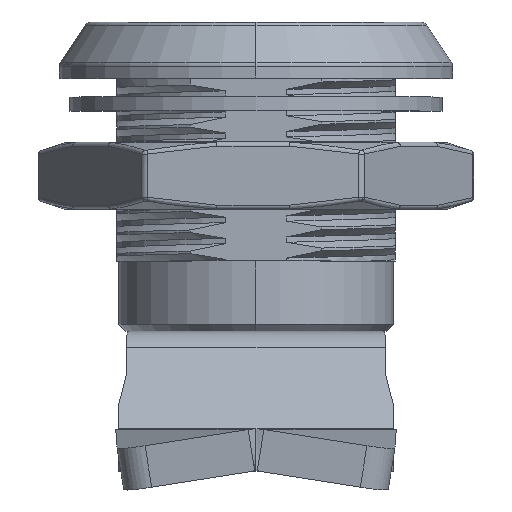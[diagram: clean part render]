
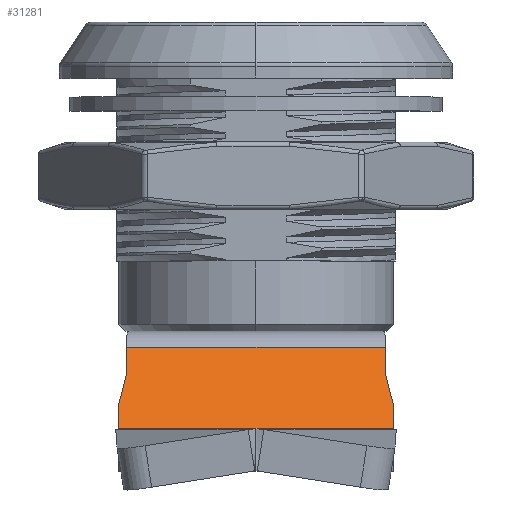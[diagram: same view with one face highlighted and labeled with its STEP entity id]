
A CAD part, top view. The second image highlights one B-rep face of the part: STEP entity #31281.
In plain terms, the highlighted planar face has unit normal (0, 0.643, 0.766).
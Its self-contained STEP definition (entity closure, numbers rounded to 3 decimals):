
#3646 = ORIENTED_EDGE ( 'NONE', *, *, #75448, .F. ) ;
#4341 = VERTEX_POINT ( 'NONE', #6008 ) ;
#6008 = CARTESIAN_POINT ( 'NONE',  ( -9.75, -29.029, 22.264 ) ) ;
#6136 = VERTEX_POINT ( 'NONE', #51394 ) ;
#6480 = LINE ( 'NONE', #73561, #24457 ) ;
#6879 = LINE ( 'NONE', #36664, #72632 ) ;
#8025 = VECTOR ( 'NONE', #40935, 1000. ) ;
#9156 = CARTESIAN_POINT ( 'NONE',  ( 9.75, -27.255, 20.776 ) ) ;
#9916 = EDGE_LOOP ( 'NONE', ( #59851, #27382, #63926, #19089, #3646, #16232, #41666, #35274 ) ) ;
#10306 = VECTOR ( 'NONE', #54891, 1000. ) ;
#10969 = CARTESIAN_POINT ( 'NONE',  ( 0., -29.029, 22.264 ) ) ;
#11034 = EDGE_CURVE ( 'NONE', #65781, #54383, #35644, .T. ) ;
#13998 = DIRECTION ( 'NONE',  ( 0.189, 0.752, -0.631 ) ) ;
#16232 = ORIENTED_EDGE ( 'NONE', *, *, #61440, .F. ) ;
#16522 = PLANE ( 'NONE',  #74404 ) ;
#17720 = CARTESIAN_POINT ( 'NONE',  ( -9.75, -27.255, 20.776 ) ) ;
#19089 = ORIENTED_EDGE ( 'NONE', *, *, #11034, .F. ) ;
#21806 = VERTEX_POINT ( 'NONE', #34653 ) ;
#21917 = VECTOR ( 'NONE', #45132, 1000. ) ;
#24457 = VECTOR ( 'NONE', #13998, 1000. ) ;
#25090 = VERTEX_POINT ( 'NONE', #50082 ) ;
#25321 = EDGE_CURVE ( 'NONE', #25090, #21806, #28972, .T. ) ;
#25712 = CARTESIAN_POINT ( 'NONE',  ( 9.19, -25.019, 18.9 ) ) ;
#27382 = ORIENTED_EDGE ( 'NONE', *, *, #54454, .F. ) ;
#27389 = VERTEX_POINT ( 'NONE', #17720 ) ;
#28431 = DIRECTION ( 'NONE',  ( 0., -0.766, 0.643 ) ) ;
#28580 = DIRECTION ( 'NONE',  ( 0., -0.766, 0.643 ) ) ;
#28972 = LINE ( 'NONE', #9156, #51808 ) ;
#29002 = CARTESIAN_POINT ( 'NONE',  ( -9.75, -29.029, 22.264 ) ) ;
#30250 = LINE ( 'NONE', #47746, #10306 ) ;
#31092 = DIRECTION ( 'NONE',  ( 0., 0.766, -0.643 ) ) ;
#31281 = ADVANCED_FACE ( 'NONE', ( #54244 ), #16522, .F. ) ;
#34406 = LINE ( 'NONE', #10969, #53689 ) ;
#34653 = CARTESIAN_POINT ( 'NONE',  ( 9.75, -29.029, 22.264 ) ) ;
#35274 = ORIENTED_EDGE ( 'NONE', *, *, #61711, .F. ) ;
#35644 = LINE ( 'NONE', #71777, #52131 ) ;
#36664 = CARTESIAN_POINT ( 'NONE',  ( 9.19, -25.019, 18.9 ) ) ;
#39558 = LINE ( 'NONE', #69336, #21917 ) ;
#40935 = DIRECTION ( 'NONE',  ( 0., 0.766, -0.643 ) ) ;
#41666 = ORIENTED_EDGE ( 'NONE', *, *, #55986, .F. ) ;
#45132 = DIRECTION ( 'NONE',  ( 0.189, -0.752, 0.631 ) ) ;
#46613 = CARTESIAN_POINT ( 'NONE',  ( -9.19, -23.243, 17.41 ) ) ;
#47746 = CARTESIAN_POINT ( 'NONE',  ( -9.19, -25.019, 18.9 ) ) ;
#47880 = CARTESIAN_POINT ( 'NONE',  ( 0., -10.648, 6.841 ) ) ;
#50082 = CARTESIAN_POINT ( 'NONE',  ( 9.75, -27.255, 20.776 ) ) ;
#51394 = CARTESIAN_POINT ( 'NONE',  ( -9.19, -25.019, 18.9 ) ) ;
#51808 = VECTOR ( 'NONE', #28580, 1000. ) ;
#52131 = VECTOR ( 'NONE', #77747, 1000. ) ;
#52661 = CARTESIAN_POINT ( 'NONE',  ( 9.19, -23.243, 17.41 ) ) ;
#53689 = VECTOR ( 'NONE', #70935, 1000. ) ;
#54244 = FACE_OUTER_BOUND ( 'NONE', #9916, .T. ) ;
#54383 = VERTEX_POINT ( 'NONE', #52661 ) ;
#54454 = EDGE_CURVE ( 'NONE', #72983, #25090, #39558, .T. ) ;
#54891 = DIRECTION ( 'NONE',  ( 0., 0.766, -0.643 ) ) ;
#55986 = EDGE_CURVE ( 'NONE', #4341, #27389, #58815, .T. ) ;
#58815 = LINE ( 'NONE', #29002, #8025 ) ;
#58957 = EDGE_CURVE ( 'NONE', #72983, #54383, #6879, .T. ) ;
#59851 = ORIENTED_EDGE ( 'NONE', *, *, #25321, .F. ) ;
#60193 = DIRECTION ( 'NONE',  ( 0., -0.643, -0.766 ) ) ;
#61440 = EDGE_CURVE ( 'NONE', #27389, #6136, #6480, .T. ) ;
#61711 = EDGE_CURVE ( 'NONE', #21806, #4341, #34406, .T. ) ;
#63926 = ORIENTED_EDGE ( 'NONE', *, *, #58957, .T. ) ;
#65781 = VERTEX_POINT ( 'NONE', #46613 ) ;
#69336 = CARTESIAN_POINT ( 'NONE',  ( 9.19, -25.019, 18.9 ) ) ;
#70935 = DIRECTION ( 'NONE',  ( -1., 0., 0. ) ) ;
#71777 = CARTESIAN_POINT ( 'NONE',  ( -18.681, -23.243, 17.41 ) ) ;
#72632 = VECTOR ( 'NONE', #31092, 1000. ) ;
#72983 = VERTEX_POINT ( 'NONE', #25712 ) ;
#73561 = CARTESIAN_POINT ( 'NONE',  ( -9.75, -27.255, 20.776 ) ) ;
#74404 = AXIS2_PLACEMENT_3D ( 'NONE', #47880, #60193, #28431 ) ;
#75448 = EDGE_CURVE ( 'NONE', #6136, #65781, #30250, .T. ) ;
#77747 = DIRECTION ( 'NONE',  ( 1., 0., 0. ) ) ;
